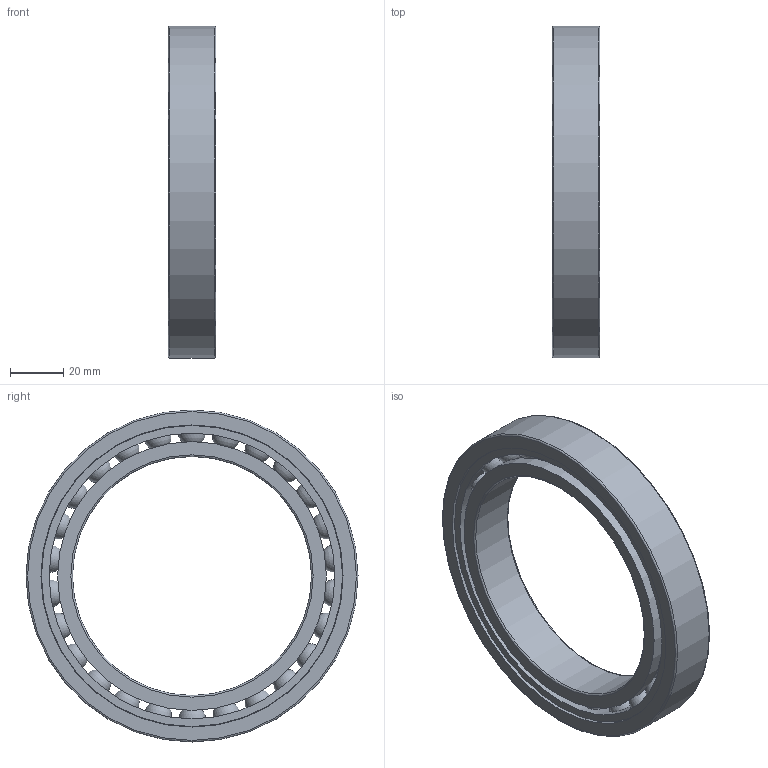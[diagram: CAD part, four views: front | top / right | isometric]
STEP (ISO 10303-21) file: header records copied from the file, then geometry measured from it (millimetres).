
FILE_DESCRIPTION(/* description */ (''),/* implementation_level */ '2;1');
FILE_NAME(/* name */ 'S_61918_TA.step',/* time_stamp */ '2013-03-06T14:48:54+01:00',/* author */ ('Marian'),/* organization */ ('GMN'),/* preprocessor_version */ 'ST-DEVELOPER v11',/* originating_system */ 'SIEMENS UGS NX 6.0',/* authorisation */ '');
FILE_SCHEMA (('CONFIG_CONTROL_DESIGN'));
Length unit declared in the file: millimetre
Products named in the file (1): S_61918_TA
Bounding box: 18 x 125 x 125 mm (x, y, z)
Volume: 79997.1 mm3; surface area: 51220.4 mm2
Topology: 29 solids, 29 shells, 72 faces, 194 edges, 126 vertices
Faces by surface type: cylinder 33, sphere 26, torus 6, plane 6, cone 1
Full cylindrical faces by diameter (mm): 10.519 x26, 90 x1, 101.2 x2, 107.639 x1, 113.35 x1, 113.75 x1, 125 x1
Entity records: 2422 total; most frequent: CARTESIAN_POINT 1127, DIRECTION 186, FACE_BOUND 170, EDGE_LOOP 144, ORIENTED_EDGE 144, VERTEX_POINT 98, AXIS2_PLACEMENT_3D 93, EDGE_CURVE 72
